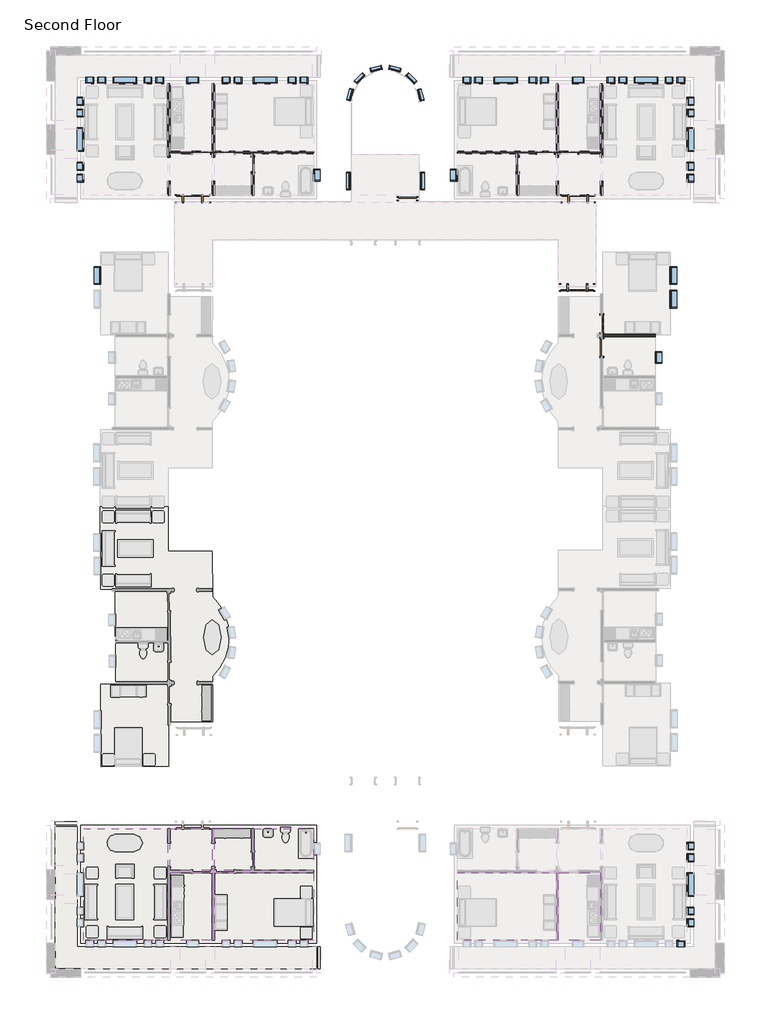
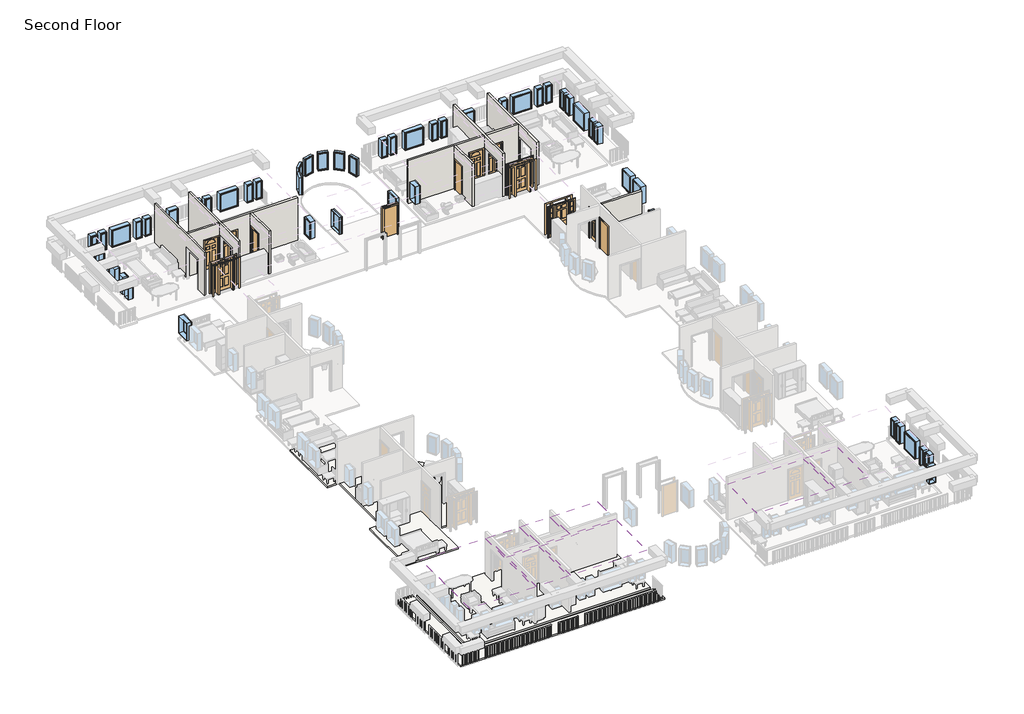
# One storey, part 3 of 6: 52 windows, 12 doors, 11 walls, 8 coverings, 3 slabs.
"""IFC4 building model written with IfcOpenShell, lengths in millimetres."""

from ifc_helpers import new_model, si_unit, point, frame, frame_2d, origin, place, context, project, spatial, polyline, circle_curve, trimmed, segment, composite_curve, outline, extrude, faceted_brep, transform, mapped, element, save
from components import door_7a520c88, door_829da954, door_2e3b4da2, door_4d6c7550, door_e36758a9, door_16372e1c, door_dba5aa2e, door_ffdb1193, window_da97879f, window_d61ef850, window_60baf983, window_ed80354a, window_80bd9af0, window_15c49d37, window_0e2fc6ce, window_e2841890, window_6eb97611, window_d89bf842

model = new_model("IFC4")

# Units and contexts
model_context = context("Model", 3, world=origin())
ifc_project = project(units=[si_unit("LENGTHUNIT", "METRE", prefix="MILLI")], contexts=[model_context])

# Site, building, storey
site = spatial("IfcSite", under=ifc_project)
building = spatial("IfcBuilding", under=site)
storey = spatial("IfcBuildingStorey", under=building, Name="Second Floor", Elevation=3048.0)

# Coverings
placement = place(None, origin())
element("IfcCovering", 1, ObjectType="GWB on Mtl. Stud", at=placement, inside=storey, context=model_context, shape_type="SweptSolid", body=[
    extrude(outline(polyline([(-11217.2464563, -33878.3558133), (-11217.2464563, -30395.3808133), (-6122.9589563, -30395.3808133), (-6122.9589563, -33878.3558133), (-11217.2464563, -33878.3558133)])), frame((0.0, 0.0, 5638.8), z_axis=(0.0, 0.0, 1.0), x_axis=(1.0, 0.0, 0.0)), (0.0, 0.0, 1.0), 107.95),
])
element("IfcCovering", 2, ObjectType="GWB on Mtl. Stud", at=placement, inside=storey, context=model_context, shape_type="SweptSolid", body=[
    extrude(outline(polyline([(-5995.9589563, -30395.3808133), (-3836.9589563, -30395.3808133), (-3836.9589563, -33878.3558133), (-5995.9589563, -33878.3558133), (-5995.9589563, -30395.3808133)])), frame((0.0, 0.0, 5638.8), z_axis=(0.0, 0.0, 1.0), x_axis=(1.0, 0.0, 0.0)), (0.0, 0.0, 1.0), 107.95),
])
element("IfcCovering", 3, ObjectType="GWB on Mtl. Stud", at=placement, inside=storey, context=model_context, shape_type="SweptSolid", body=[
    extrude(outline(polyline([(-18653.0964563, -33878.3558133), (-23747.3839563, -33878.3558133), (-23747.3839563, -30395.3808133), (-18653.0964563, -30395.3808133), (-18653.0964563, -33878.3558133)])), frame((0.0, 0.0, 5638.8), z_axis=(0.0, 0.0, 1.0), x_axis=(1.0, 0.0, 0.0)), (0.0, 0.0, 1.0), 107.95),
])
element("IfcCovering", 4, ObjectType="GWB on Mtl. Stud", at=placement, inside=storey, context=model_context, shape_type="SweptSolid", body=[
    extrude(outline(polyline([(-23874.3839563, -30395.3808133), (-23874.3839563, -33878.3558133), (-26033.3839563, -33878.3558133), (-26033.3839563, -30395.3808133), (-23874.3839563, -30395.3808133)])), frame((0.0, 0.0, 5638.8), z_axis=(0.0, 0.0, 1.0), x_axis=(1.0, 0.0, 0.0)), (0.0, 0.0, 1.0), 107.95),
])
element("IfcCovering", 5, ObjectType="GWB on Mtl. Stud", at=placement, inside=storey, context=model_context, shape_type="SweptSolid", body=[
    extrude(outline(polyline([(-26160.3839563, -28134.7808133), (-26160.3839563, -33878.3558133), (-30492.6714563, -33878.3558133), (-30492.6714563, -28134.7808133), (-26160.3839563, -28134.7808133)])), frame((0.0, 0.0, 5638.8), z_axis=(0.0, 0.0, 1.0), x_axis=(1.0, 0.0, 0.0)), (0.0, 0.0, 1.0), 107.95),
])
element("IfcCovering", 6, ObjectType="GWB on Mtl. Stud", at=placement, inside=storey, context=model_context, shape_type="SweptSolid", body=[
    extrude(outline(polyline([(-26033.3839563, -28134.7808133), (-23874.3839563, -28134.7808133), (-23874.3839563, -30268.3808133), (-26033.3839563, -30268.3808133), (-26033.3839563, -28134.7808133)])), frame((0.0, 0.0, 5638.8), z_axis=(0.0, 0.0, 1.0), x_axis=(1.0, 0.0, 0.0)), (0.0, 0.0, 1.0), 107.95),
])
element("IfcCovering", 7, ObjectType="GWB on Mtl. Stud", at=placement, inside=storey, context=model_context, shape_type="SweptSolid", body=[
    extrude(outline(polyline([(-23747.3839563, -28134.7808133), (-21828.0964563, -28134.7808133), (-21828.0964563, -30268.3808133), (-23747.3839563, -30268.3808133), (-23747.3839563, -28134.7808133)])), frame((0.0, 0.0, 5638.8), z_axis=(0.0, 0.0, 1.0), x_axis=(1.0, 0.0, 0.0)), (0.0, 0.0, 1.0), 107.95),
])
element("IfcCovering", 8, ObjectType="GWB on Mtl. Stud", at=placement, inside=storey, context=model_context, shape_type="SweptSolid", body=[
    extrude(outline(polyline([(-21701.0964563, -30268.3808133), (-21701.0964563, -28134.7808133), (-18653.0964563, -28134.7808133), (-18653.0964563, -30268.3808133), (-21701.0964563, -30268.3808133)])), frame((0.0, 0.0, 5638.8), z_axis=(0.0, 0.0, 1.0), x_axis=(1.0, 0.0, 0.0)), (0.0, 0.0, 1.0), 107.95),
])

# Doors
door_shape = door_7a520c88(model_context)
element("IfcDoor", 9, ObjectType="Single-Decorative 2 : 36\" x 84\"", at=placement, inside=storey, context=model_context, shape_type="MappedRepresentation", body=[
    mapped(door_shape, transform((-3771.8996568, -2102.1231556, 3048.0), x_axis=(0.0007588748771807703, -0.9999997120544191, 0.0), y_axis=(0.9999997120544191, 0.0007588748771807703, 0.0), z_axis=(0.0, 0.0, 1.0))),
])
door_2_shape = door_829da954(model_context)
element("IfcDoor", 10, ObjectType="Single-Decorative 2 : 36\" x 84\"", at=placement, inside=storey, context=model_context, shape_type="MappedRepresentation", body=[
    mapped(door_2_shape, transform((-5449.8589563, 6723.5441867, 3048.0), x_axis=(-1.0, 0.0, 0.0), y_axis=(0.0, -1.0, 0.0), z_axis=(0.0, 0.0, 1.0))),
])
element("IfcDoor", 11, ObjectType="Single-Decorative 2 : 36\" x 84\"", at=placement, inside=storey, context=model_context, shape_type="MappedRepresentation", body=[
    mapped(door_2_shape, transform((-23201.2839563, 6723.5441867, 3048.0), x_axis=(-1.0, 0.0, 0.0), y_axis=(0.0, -1.0, 0.0), z_axis=(0.0, 0.0, 1.0))),
])
door_3_shape = door_2e3b4da2(model_context)
element("IfcDoor", 12, ObjectType="Single-Decorative 2 : 36\" x 84\"", at=placement, inside=storey, context=model_context, shape_type="MappedRepresentation", body=[
    mapped(door_3_shape, transform((-6669.0589563, 6723.5441867, 3048.0), x_axis=(1.0, 0.0, 0.0), y_axis=(0.0, 1.0, 0.0), z_axis=(0.0, 0.0, 1.0))),
])
element("IfcDoor", 13, ObjectType="Single-Decorative 2 : 36\" x 84\"", at=placement, inside=storey, context=model_context, shape_type="MappedRepresentation", body=[
    mapped(door_3_shape, transform((-24420.4839563, 6723.5441867, 3048.0), x_axis=(1.0, 0.0, 0.0), y_axis=(0.0, 1.0, 0.0), z_axis=(0.0, 0.0, 1.0))),
])
door_4_shape = door_4d6c7550(model_context)
element("IfcDoor", 14, ObjectType="Single-Flush : 30\" x 84\"", at=placement, inside=storey, context=model_context, shape_type="MappedRepresentation", body=[
    mapped(door_4_shape, transform((-8105.7464563, 6113.9441867, 3048.0), x_axis=(0.0, 1.0, 0.0), y_axis=(-1.0, 0.0, 0.0), z_axis=(0.0, 0.0, 1.0))),
])
door_5_shape = door_e36758a9(model_context)
element("IfcDoor", 15, ObjectType="Single-Flush : 30\" x 84\"", at=placement, inside=storey, context=model_context, shape_type="MappedRepresentation", body=[
    mapped(door_5_shape, transform((-21764.5964563, 6113.9441867, 3048.0), x_axis=(0.0, 1.0, 0.0), y_axis=(-1.0, 0.0, 0.0), z_axis=(0.0, 0.0, 1.0))),
])
door_6_shape = door_16372e1c(model_context)
element("IfcDoor", 16, ObjectType="Single-Flush : 36\" x 84\"", at=placement, inside=storey, context=model_context, shape_type="MappedRepresentation", body=[
    mapped(door_6_shape, transform((-13792.1714563, 4350.2316867, 3048.0), x_axis=(1.0, 0.0, 0.0), y_axis=(0.0, 1.0, 0.0), z_axis=(0.0, 0.0, 1.0))),
])
element("IfcDoor", 17, ObjectType="Single-Flush : 36\" x 84\"", at=placement, inside=storey, context=model_context, shape_type="MappedRepresentation", body=[
    mapped(door_6_shape, transform((-3770.9744365, -3321.3228045, 3048.0), x_axis=(-0.0007588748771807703, 0.9999997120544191, 0.0), y_axis=(-0.9999997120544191, -0.0007588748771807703, 0.0), z_axis=(0.0, 0.0, 1.0))),
])
door_7_shape = door_dba5aa2e(model_context)
element("IfcDoor", 18, ObjectType="Single-Raised Panel with Sidelights : 36\" x 84\"", at=placement, inside=storey, context=model_context, shape_type="MappedRepresentation", body=[
    mapped(door_7_shape, transform((-4992.6589563, 4350.2316867, 3048.0), x_axis=(-1.0, 0.0, 0.0), y_axis=(0.0, -1.0, 0.0), z_axis=(0.0, 0.0, 1.0))),
])
door_8_shape = door_ffdb1193(model_context)
element("IfcDoor", 19, ObjectType="Single-Raised Panel with Sidelights : 36\" x 84\"", at=placement, inside=storey, context=model_context, shape_type="MappedRepresentation", body=[
    mapped(door_8_shape, transform((-24877.6839563, 4350.2316867, 3048.0), x_axis=(1.0, 0.0, 0.0), y_axis=(0.0, 1.0, 0.0), z_axis=(0.0, 0.0, 1.0))),
])
element("IfcDoor", 20, ObjectType="Single-Raised Panel with Sidelights : 36\" x 84\"", at=placement, inside=storey, context=model_context, shape_type="MappedRepresentation", body=[
    mapped(door_8_shape, transform((-5029.0381129, -223.5602693, 3048.0), x_axis=(-0.9999997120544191, -0.0007588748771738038, 0.0), y_axis=(0.0007588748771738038, -0.9999997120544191, 0.0), z_axis=(0.0, 0.0, 1.0))),
])

# Slabs
element("IfcSlab", 21, ObjectType="LW Concrete on Metal Deck", at=placement, inside=storey, context=model_context, shape_type="SweptSolid", body=[
    extrude(outline(polyline([(-31964.2839563, -35349.9683133), (-31964.2839563, -27782.3558133), (-30845.0964563, -27782.3558133), (-30845.0964563, -34230.7808133), (-18300.6714563, -34230.7808133), (-18300.6714563, -35349.9683133), (-31964.2839563, -35349.9683133)])), frame((0.0, 0.0, 2943.225), z_axis=(0.0, 0.0, 1.0), x_axis=(1.0, 0.0, 0.0)), (0.0, 0.0, 1.0), 104.775),
])
element("IfcSlab", 22, ObjectType="LW Concrete on Metal Deck", at=placement, inside=storey, context=model_context, shape_type="SweptSolid", body=[
    extrude(outline(polyline([(-30657.7714563, -34043.4558133), (-30657.7714563, -27969.6808133), (-18487.9964563, -27969.6808133), (-18487.9964563, -34043.4558133), (-30657.7714563, -34043.4558133)])), frame((0.0, 0.0, 2943.225), z_axis=(0.0, 0.0, 1.0), x_axis=(1.0, 0.0, 0.0)), (0.0, 0.0, 1.0), 104.775),
])
element("IfcSlab", 23, ObjectType="LW Concrete on Metal Deck", at=placement, inside=storey, context=model_context, shape_type="SweptSolid", body=[
    extrude(outline(composite_curve([segment(polyline([(-29609.2961082, -24931.1815598), (-29618.9603154, -20686.2175607), (-28856.9622901, -20684.4827741), (-28868.1155225, -15785.4704699), (-29630.1135478, -15787.2052566), (-29639.777755, -11542.2412575), (-26156.8117812, -11534.3118369), (-26151.6074213, -13820.3059127), (-23865.6133455, -13815.1015528), (-23860.2393533, -16175.6059337)]), True, "CONTINUOUS"), segment(trimmed(circle_curve(frame_2d((-25868.7665498, -18228.1609137)), 2871.7875), [point((-23860.2393533, -16175.6059337))], [point((-23850.9144107, -20271.5493226))], False, "CARTESIAN"), True, "CONTINUOUS"), segment(polyline([(-23850.9144107, -20271.5493226), (-23845.5404184, -22632.0537035), (-26131.5344942, -22637.2580634), (-26126.3301343, -24923.2521392), (-29609.2961082, -24931.1815598)]), True, "CONTINUOUS")], self_intersect=False)), frame((0.0, 0.0, 2943.225), z_axis=(0.0, 0.0, 1.0), x_axis=(1.0, 0.0, 0.0)), (0.0, 0.0, 1.0), 104.775),
])

# Walls
element("IfcWall", 24, ObjectType="Interior - 5\" Partition (2-hr)", at=placement, inside=storey, context=model_context, shape_type="Brep", body=[
    faceted_brep([(-3709.9589563, 10270.0191867, 3048.0), (-3709.9589563, 6483.8316867, 3048.0), (-3836.9589563, 6483.8316867, 3048.0), (-3836.9589563, 6660.0441867, 3048.0), (-3836.9589563, 6787.0441867, 3048.0), (-3836.9589563, 10270.0191867, 3048.0), (-3709.9589563, 5264.6316867, 3048.0), (-3709.9589563, 4526.4441867, 3048.0), (-3836.9589563, 4526.4441867, 3048.0), (-3836.9589563, 5264.6316867, 3048.0), (-3836.9589563, 10270.0191867, 6096.0), (-3836.9589563, 6787.0441867, 6096.0), (-3836.9589563, 6660.0441867, 6096.0), (-3836.9589563, 4526.4441867, 6096.0), (-3709.9589563, 4526.4441867, 6096.0), (-3709.9589563, 10270.0191867, 6096.0), (-3836.9589563, 6483.8316867, 5181.6), (-3836.9589563, 5264.6316867, 5181.6), (-3709.9589563, 6483.8316867, 5181.6), (-3709.9589563, 5264.6316867, 5181.6)], [[[0, 1, 2, 3, 4, 5]], [[6, 7, 8, 9]], [[10, 11, 12, 13, 14, 15]], [[5, 4, 3, 2, 16, 17, 9, 8, 13, 12, 11, 10]], [[18, 1, 0, 15, 14, 7, 6, 19]], [[5, 10, 15, 0]], [[13, 8, 7, 14]], [[9, 17, 19, 6]], [[16, 2, 1, 18]], [[17, 16, 18, 19]]]),
])
element("IfcWall", 25, ObjectType="Interior - 5\" Partition (2-hr)", at=placement, inside=storey, context=model_context, shape_type="Brep", body=[
    faceted_brep([(-6122.9589563, 4526.4441867, 3048.0), (-6122.9589563, 5264.6316867, 3048.0), (-5995.9589563, 5264.6316867, 3048.0), (-5995.9589563, 4526.4441867, 3048.0), (-6122.9589563, 6483.8316867, 3048.0), (-6122.9589563, 6660.0441867, 3048.0), (-6122.9589563, 6787.0441867, 3048.0), (-6122.9589563, 10270.0191867, 3048.0), (-5995.9589563, 10270.0191867, 3048.0), (-5995.9589563, 6787.0441867, 3048.0), (-5995.9589563, 6660.0441867, 3048.0), (-5995.9589563, 6483.8316867, 3048.0), (-6122.9589563, 10270.0191867, 6096.0), (-6122.9589563, 6787.0441867, 6096.0), (-6122.9589563, 6660.0441867, 6096.0), (-6122.9589563, 4526.4441867, 6096.0), (-5995.9589563, 4526.4441867, 6096.0), (-5995.9589563, 6660.0441867, 6096.0), (-5995.9589563, 6787.0441867, 6096.0), (-5995.9589563, 10270.0191867, 6096.0), (-6122.9589563, 5264.6316867, 5181.6), (-6122.9589563, 6483.8316867, 5181.6), (-5995.9589563, 5264.6316867, 5181.6), (-5995.9589563, 6483.8316867, 5181.6)], [[[0, 1, 2, 3]], [[4, 5, 6, 7, 8, 9, 10, 11]], [[12, 13, 14, 15, 16, 17, 18, 19]], [[20, 1, 0, 15, 14, 13, 12, 7, 6, 5, 4, 21]], [[3, 2, 22, 23, 11, 10, 9, 8, 19, 18, 17, 16]], [[7, 12, 19, 8]], [[15, 0, 3, 16]], [[11, 23, 21, 4]], [[22, 2, 1, 20]], [[23, 22, 20, 21]]]),
])
element("IfcWall", 26, ObjectType="Interior - 5\" Partition (2-hr)", at=placement, inside=storey, context=model_context, shape_type="Brep", body=[
    faceted_brep([(-6122.9589563, 6660.0441867, 3048.0), (-6211.8589563, 6660.0441867, 3048.0), (-6211.8589563, 6787.0441867, 3048.0), (-6122.9589563, 6787.0441867, 3048.0), (-7126.2589563, 6660.0441867, 3048.0), (-8042.2464563, 6660.0441867, 3048.0), (-8169.2464563, 6660.0441867, 3048.0), (-11217.2464563, 6660.0441867, 3048.0), (-11217.2464563, 6787.0441867, 3048.0), (-7126.2589563, 6787.0441867, 3048.0), (-11217.2464563, 6660.0441867, 6096.0), (-8169.2464563, 6660.0441867, 6096.0), (-8042.2464563, 6660.0441867, 6096.0), (-6122.9589563, 6660.0441867, 6096.0), (-6122.9589563, 6787.0441867, 6096.0), (-11217.2464563, 6787.0441867, 6096.0), (-6211.8589563, 6660.0441867, 5181.6), (-7126.2589563, 6660.0441867, 5181.6), (-6211.8589563, 6787.0441867, 5181.6), (-7126.2589563, 6787.0441867, 5181.6)], [[[0, 1, 2, 3]], [[4, 5, 6, 7, 8, 9]], [[10, 11, 12, 13, 14, 15]], [[16, 1, 0, 13, 12, 11, 10, 7, 6, 5, 4, 17]], [[3, 2, 18, 19, 9, 8, 15, 14]], [[13, 0, 3, 14]], [[7, 10, 15, 8]], [[18, 2, 1, 16]], [[19, 18, 16, 17]], [[9, 19, 17, 4]]]),
])
element("IfcWall", 27, ObjectType="Interior - 5\" Partition (2-hr)", at=placement, inside=storey, context=model_context, shape_type="SweptSolid", body=[
    extrude(outline(polyline([(6660.0441867, 3048.0), (6494.9441867, 3048.0), (6494.9441867, 5181.6), (5732.9441867, 5181.6), (5732.9441867, 3048.0), (4526.4441867, 3048.0), (4526.4441867, 6096.0), (6660.0441867, 6096.0), (6660.0441867, 3048.0)])), frame((-8169.2464563, 0.0, 0.0), z_axis=(1.0, 0.0, 0.0), x_axis=(0.0, 1.0, 0.0)), (0.0, 0.0, 1.0), 127.0),
])
element("IfcWall", 28, ObjectType="Interior - 5\" Partition (2-hr)", at=placement, inside=storey, context=model_context, shape_type="SweptSolid", body=[
    extrude(outline(polyline([(3048.0, -5995.9589563), (3048.0, -5907.0589563), (5181.6, -5907.0589563), (5181.6, -4992.6589563), (3048.0, -4992.6589563), (3048.0, -3836.9589563), (6096.0, -3836.9589563), (6096.0, -5995.9589563), (3048.0, -5995.9589563)])), frame((0.0, 6660.0441867, 0.0), z_axis=(0.0, 1.0, 0.0), x_axis=(0.0, 0.0, 1.0)), (0.0, 0.0, 1.0), 127.0),
])
element("IfcWall", 29, ObjectType="Interior - 5\" Partition (2-hr)", at=placement, inside=storey, context=model_context, shape_type="Brep", body=[
    faceted_brep([(-26033.3839563, 10270.0191867, 3048.0), (-26033.3839563, 6787.0441867, 3048.0), (-26033.3839563, 6660.0441867, 3048.0), (-26033.3839563, 6483.8316867, 3048.0), (-26160.3839563, 6483.8316867, 3048.0), (-26160.3839563, 10270.0191867, 3048.0), (-26033.3839563, 5264.6316867, 3048.0), (-26033.3839563, 4526.4441867, 3048.0), (-26160.3839563, 4526.4441867, 3048.0), (-26160.3839563, 5264.6316867, 3048.0), (-26160.3839563, 10270.0191867, 6096.0), (-26160.3839563, 4526.4441867, 6096.0), (-26033.3839563, 4526.4441867, 6096.0), (-26033.3839563, 6660.0441867, 6096.0), (-26033.3839563, 6787.0441867, 6096.0), (-26033.3839563, 10270.0191867, 6096.0), (-26160.3839563, 6483.8316867, 5181.6), (-26160.3839563, 5264.6316867, 5181.6), (-26033.3839563, 6483.8316867, 5181.6), (-26033.3839563, 5264.6316867, 5181.6)], [[[0, 1, 2, 3, 4, 5]], [[6, 7, 8, 9]], [[10, 11, 12, 13, 14, 15]], [[5, 4, 16, 17, 9, 8, 11, 10]], [[18, 3, 2, 1, 0, 15, 14, 13, 12, 7, 6, 19]], [[5, 10, 15, 0]], [[11, 8, 7, 12]], [[9, 17, 19, 6]], [[16, 4, 3, 18]], [[17, 16, 18, 19]]]),
])
element("IfcWall", 30, ObjectType="Interior - 5\" Partition (2-hr)", at=placement, inside=storey, context=model_context, shape_type="Brep", body=[
    faceted_brep([(-23874.3839563, 4526.4441867, 3048.0), (-23874.3839563, 5264.6316867, 3048.0), (-23747.3839563, 5264.6316867, 3048.0), (-23747.3839563, 4526.4441867, 3048.0), (-23874.3839563, 6483.8316867, 3048.0), (-23874.3839563, 6660.0441867, 3048.0), (-23874.3839563, 6787.0441867, 3048.0), (-23874.3839563, 10270.0191867, 3048.0), (-23747.3839563, 10270.0191867, 3048.0), (-23747.3839563, 6787.0441867, 3048.0), (-23747.3839563, 6660.0441867, 3048.0), (-23747.3839563, 6483.8316867, 3048.0), (-23874.3839563, 10270.0191867, 6096.0), (-23874.3839563, 6787.0441867, 6096.0), (-23874.3839563, 6660.0441867, 6096.0), (-23874.3839563, 4526.4441867, 6096.0), (-23747.3839563, 4526.4441867, 6096.0), (-23747.3839563, 6660.0441867, 6096.0), (-23747.3839563, 6787.0441867, 6096.0), (-23747.3839563, 10270.0191867, 6096.0), (-23874.3839563, 5264.6316867, 5181.6), (-23874.3839563, 6483.8316867, 5181.6), (-23747.3839563, 5264.6316867, 5181.6), (-23747.3839563, 6483.8316867, 5181.6)], [[[0, 1, 2, 3]], [[4, 5, 6, 7, 8, 9, 10, 11]], [[12, 13, 14, 15, 16, 17, 18, 19]], [[20, 1, 0, 15, 14, 13, 12, 7, 6, 5, 4, 21]], [[3, 2, 22, 23, 11, 10, 9, 8, 19, 18, 17, 16]], [[7, 12, 19, 8]], [[15, 0, 3, 16]], [[11, 23, 21, 4]], [[22, 2, 1, 20]], [[23, 22, 20, 21]]]),
])
element("IfcWall", 31, ObjectType="Interior - 5\" Partition (2-hr)", at=placement, inside=storey, context=model_context, shape_type="Brep", body=[
    faceted_brep([(-23747.3839563, 6787.0441867, 3048.0), (-23658.4839563, 6787.0441867, 3048.0), (-23658.4839563, 6660.0441867, 3048.0), (-23747.3839563, 6660.0441867, 3048.0), (-22744.0839563, 6787.0441867, 3048.0), (-18653.0964563, 6787.0441867, 3048.0), (-18653.0964563, 6660.0441867, 3048.0), (-21701.0964563, 6660.0441867, 3048.0), (-21828.0964563, 6660.0441867, 3048.0), (-22744.0839563, 6660.0441867, 3048.0), (-18653.0964563, 6787.0441867, 6096.0), (-23747.3839563, 6787.0441867, 6096.0), (-23747.3839563, 6660.0441867, 6096.0), (-21828.0964563, 6660.0441867, 6096.0), (-21701.0964563, 6660.0441867, 6096.0), (-18653.0964563, 6660.0441867, 6096.0), (-23658.4839563, 6787.0441867, 5181.6), (-22744.0839563, 6787.0441867, 5181.6), (-23658.4839563, 6660.0441867, 5181.6), (-22744.0839563, 6660.0441867, 5181.6)], [[[0, 1, 2, 3]], [[4, 5, 6, 7, 8, 9]], [[10, 11, 12, 13, 14, 15]], [[16, 1, 0, 11, 10, 5, 4, 17]], [[3, 2, 18, 19, 9, 8, 7, 6, 15, 14, 13, 12]], [[11, 0, 3, 12]], [[5, 10, 15, 6]], [[18, 2, 1, 16]], [[19, 18, 16, 17]], [[9, 19, 17, 4]]]),
])
element("IfcWall", 32, ObjectType="Interior - 5\" Partition (2-hr)", at=placement, inside=storey, context=model_context, shape_type="SweptSolid", body=[
    extrude(outline(polyline([(6660.0441867, 3048.0), (6494.9441867, 3048.0), (6494.9441867, 5181.6), (5732.9441867, 5181.6), (5732.9441867, 3048.0), (4526.4441867, 3048.0), (4526.4441867, 6096.0), (6660.0441867, 6096.0), (6660.0441867, 3048.0)])), frame((-21828.0964563, 0.0, 0.0), z_axis=(1.0, 0.0, 0.0), x_axis=(0.0, 1.0, 0.0)), (0.0, 0.0, 1.0), 127.0),
])
element("IfcWall", 33, ObjectType="Interior - 5\" Partition (2-hr)", at=placement, inside=storey, context=model_context, shape_type="SweptSolid", body=[
    extrude(outline(polyline([(5181.6, -23963.2839563), (3048.0, -23963.2839563), (3048.0, -23874.3839563), (6096.0, -23874.3839563), (6096.0, -26033.3839563), (3048.0, -26033.3839563), (3048.0, -24877.6839563), (5181.6, -24877.6839563), (5181.6, -23963.2839563)])), frame((0.0, 6660.0441867, 0.0), z_axis=(0.0, 1.0, 0.0), x_axis=(0.0, 0.0, 1.0)), (0.0, 0.0, 1.0), 127.0),
])
element("IfcWall", 34, ObjectType="Interior - 5\" Partition (2-hr)", at=placement, inside=storey, context=model_context, shape_type="SweptSolid", body=[
    extrude(outline(polyline([(-3707.9852535, -2648.1748098), (-1012.4110297, -2646.1292056), (-1012.3146526, -2773.1291691), (-3707.8888764, -2775.1747732), (-3707.9852535, -2648.1748098)])), frame((0.0, 0.0, 3048.0), z_axis=(0.0, 0.0, 1.0), x_axis=(1.0, 0.0, 0.0)), (0.0, 0.0, 1.0), 3048.0),
])

# Windows
window_shape = window_da97879f(model_context)
element("IfcWindow", 35, ObjectType="Fixed : 16\" x 48\"", at=placement, inside=storey, context=model_context, shape_type="MappedRepresentation", body=[
    mapped(window_shape, transform((-10771.1589563, 10446.2316867, 3048.0), x_axis=(-1.0, 0.0, 0.0), y_axis=(0.0, -1.0, 0.0), z_axis=(0.0, 0.0, 1.0))),
])
element("IfcWindow", 36, ObjectType="Fixed : 16\" x 48\"", at=placement, inside=storey, context=model_context, shape_type="MappedRepresentation", body=[
    mapped(window_shape, transform((-10161.5589563, 10446.2316867, 3048.0), x_axis=(-1.0, 0.0, 0.0), y_axis=(0.0, -1.0, 0.0), z_axis=(0.0, 0.0, 1.0))),
])
element("IfcWindow", 37, ObjectType="Fixed : 16\" x 48\"", at=placement, inside=storey, context=model_context, shape_type="MappedRepresentation", body=[
    mapped(window_shape, transform((-3328.9589563, 10446.2316867, 3048.0), x_axis=(-1.0, 0.0, 0.0), y_axis=(0.0, -1.0, 0.0), z_axis=(0.0, 0.0, 1.0))),
])
element("IfcWindow", 38, ObjectType="Fixed : 16\" x 48\"", at=placement, inside=storey, context=model_context, shape_type="MappedRepresentation", body=[
    mapped(window_shape, transform((-2719.3589563, 10446.2316867, 3048.0), x_axis=(-1.0, 0.0, 0.0), y_axis=(0.0, -1.0, 0.0), z_axis=(0.0, 0.0, 1.0))),
])
element("IfcWindow", 39, ObjectType="Fixed : 16\" x 48\"", at=placement, inside=storey, context=model_context, shape_type="MappedRepresentation", body=[
    mapped(window_shape, transform((798.5410437, 9417.5316867, 3048.0), x_axis=(0.0, 1.0, 0.0), y_axis=(-1.0, 0.0, 0.0), z_axis=(0.0, 0.0, 1.0))),
])
element("IfcWindow", 40, ObjectType="Fixed : 16\" x 48\"", at=placement, inside=storey, context=model_context, shape_type="MappedRepresentation", body=[
    mapped(window_shape, transform((798.5410437, 8807.9316867, 3048.0), x_axis=(0.0, 1.0, 0.0), y_axis=(-1.0, 0.0, 0.0), z_axis=(0.0, 0.0, 1.0))),
])
element("IfcWindow", 41, ObjectType="Fixed : 16\" x 48\"", at=placement, inside=storey, context=model_context, shape_type="MappedRepresentation", body=[
    mapped(window_shape, transform((-23188.5839563, 10446.2316867, 3048.0), x_axis=(-1.0, 0.0, 0.0), y_axis=(0.0, -1.0, 0.0), z_axis=(0.0, 0.0, 1.0))),
])
element("IfcWindow", 42, ObjectType="Fixed : 16\" x 48\"", at=placement, inside=storey, context=model_context, shape_type="MappedRepresentation", body=[
    mapped(window_shape, transform((-22578.9839563, 10446.2316867, 3048.0), x_axis=(-1.0, 0.0, 0.0), y_axis=(0.0, -1.0, 0.0), z_axis=(0.0, 0.0, 1.0))),
])
element("IfcWindow", 43, ObjectType="Fixed : 16\" x 48\"", at=placement, inside=storey, context=model_context, shape_type="MappedRepresentation", body=[
    mapped(window_shape, transform((-30224.3839563, 10446.2316867, 3048.0), x_axis=(-1.0, 0.0, 0.0), y_axis=(0.0, -1.0, 0.0), z_axis=(0.0, 0.0, 1.0))),
])
element("IfcWindow", 44, ObjectType="Fixed : 16\" x 48\"", at=placement, inside=storey, context=model_context, shape_type="MappedRepresentation", body=[
    mapped(window_shape, transform((-29614.7839563, 10446.2316867, 3048.0), x_axis=(-1.0, 0.0, 0.0), y_axis=(0.0, -1.0, 0.0), z_axis=(0.0, 0.0, 1.0))),
])
element("IfcWindow", 45, ObjectType="Fixed : 16\" x 48\"", at=placement, inside=storey, context=model_context, shape_type="MappedRepresentation", body=[
    mapped(window_shape, transform((-30668.8839563, 5378.9316867, 3048.0), x_axis=(0.0, -1.0, 0.0), y_axis=(1.0, 0.0, 0.0), z_axis=(0.0, 0.0, 1.0))),
])
element("IfcWindow", 46, ObjectType="Fixed : 16\" x 48\"", at=placement, inside=storey, context=model_context, shape_type="MappedRepresentation", body=[
    mapped(window_shape, transform((-30668.8839563, 5988.5316867, 3048.0), x_axis=(0.0, -1.0, 0.0), y_axis=(1.0, 0.0, 0.0), z_axis=(0.0, 0.0, 1.0))),
])
element("IfcWindow", 47, ObjectType="Fixed : 16\" x 48\"", at=placement, inside=storey, context=model_context, shape_type="MappedRepresentation", body=[
    mapped(window_shape, transform((354.0410437, -34054.5683133, 3048.0), x_axis=(1.0, 0.0, 0.0), y_axis=(0.0, 1.0, 0.0), z_axis=(0.0, 0.0, 1.0))),
])
element("IfcWindow", 48, ObjectType="Fixed : 16\" x 48\"", at=placement, inside=storey, context=model_context, shape_type="MappedRepresentation", body=[
    mapped(window_shape, transform((798.5410437, -28987.2683133, 3048.0), x_axis=(0.0, 1.0, 0.0), y_axis=(-1.0, 0.0, 0.0), z_axis=(0.0, 0.0, 1.0))),
])
element("IfcWindow", 49, ObjectType="Fixed : 16\" x 48\"", at=placement, inside=storey, context=model_context, shape_type="MappedRepresentation", body=[
    mapped(window_shape, transform((798.5410437, -29596.8683133, 3048.0), x_axis=(0.0, 1.0, 0.0), y_axis=(-1.0, 0.0, 0.0), z_axis=(0.0, 0.0, 1.0))),
])
window_2_shape = window_d61ef850(model_context)
element("IfcWindow", 50, ObjectType="Fixed : 16\" x 48\"", at=placement, inside=storey, context=model_context, shape_type="MappedRepresentation", body=[
    mapped(window_2_shape, transform((-6681.7589563, 10446.2316867, 3048.0), x_axis=(1.0, 0.0, 0.0), y_axis=(0.0, 1.0, 0.0), z_axis=(0.0, 0.0, 1.0))),
])
element("IfcWindow", 51, ObjectType="Fixed : 16\" x 48\"", at=placement, inside=storey, context=model_context, shape_type="MappedRepresentation", body=[
    mapped(window_2_shape, transform((-7291.3589563, 10446.2316867, 3048.0), x_axis=(1.0, 0.0, 0.0), y_axis=(0.0, 1.0, 0.0), z_axis=(0.0, 0.0, 1.0))),
])
element("IfcWindow", 52, ObjectType="Fixed : 16\" x 48\"", at=placement, inside=storey, context=model_context, shape_type="MappedRepresentation", body=[
    mapped(window_2_shape, transform((354.0410437, 10446.2316867, 3048.0), x_axis=(1.0, 0.0, 0.0), y_axis=(0.0, 1.0, 0.0), z_axis=(0.0, 0.0, 1.0))),
])
element("IfcWindow", 53, ObjectType="Fixed : 16\" x 48\"", at=placement, inside=storey, context=model_context, shape_type="MappedRepresentation", body=[
    mapped(window_2_shape, transform((-255.5589563, 10446.2316867, 3048.0), x_axis=(1.0, 0.0, 0.0), y_axis=(0.0, 1.0, 0.0), z_axis=(0.0, 0.0, 1.0))),
])
element("IfcWindow", 54, ObjectType="Fixed : 16\" x 48\"", at=placement, inside=storey, context=model_context, shape_type="MappedRepresentation", body=[
    mapped(window_2_shape, transform((798.5410437, 5378.9316867, 3048.0), x_axis=(0.0, -1.0, 0.0), y_axis=(1.0, 0.0, 0.0), z_axis=(0.0, 0.0, 1.0))),
])
element("IfcWindow", 55, ObjectType="Fixed : 16\" x 48\"", at=placement, inside=storey, context=model_context, shape_type="MappedRepresentation", body=[
    mapped(window_2_shape, transform((798.5410437, 5988.5316867, 3048.0), x_axis=(0.0, -1.0, 0.0), y_axis=(1.0, 0.0, 0.0), z_axis=(0.0, 0.0, 1.0))),
])
element("IfcWindow", 56, ObjectType="Fixed : 16\" x 48\"", at=placement, inside=storey, context=model_context, shape_type="MappedRepresentation", body=[
    mapped(window_2_shape, transform((-19099.1839563, 10446.2316867, 3048.0), x_axis=(1.0, 0.0, 0.0), y_axis=(0.0, 1.0, 0.0), z_axis=(0.0, 0.0, 1.0))),
])
element("IfcWindow", 57, ObjectType="Fixed : 16\" x 48\"", at=placement, inside=storey, context=model_context, shape_type="MappedRepresentation", body=[
    mapped(window_2_shape, transform((-19708.7839563, 10446.2316867, 3048.0), x_axis=(1.0, 0.0, 0.0), y_axis=(0.0, 1.0, 0.0), z_axis=(0.0, 0.0, 1.0))),
])
element("IfcWindow", 58, ObjectType="Fixed : 16\" x 48\"", at=placement, inside=storey, context=model_context, shape_type="MappedRepresentation", body=[
    mapped(window_2_shape, transform((-26541.3839563, 10446.2316867, 3048.0), x_axis=(1.0, 0.0, 0.0), y_axis=(0.0, 1.0, 0.0), z_axis=(0.0, 0.0, 1.0))),
])
element("IfcWindow", 59, ObjectType="Fixed : 16\" x 48\"", at=placement, inside=storey, context=model_context, shape_type="MappedRepresentation", body=[
    mapped(window_2_shape, transform((-27150.9839563, 10446.2316867, 3048.0), x_axis=(1.0, 0.0, 0.0), y_axis=(0.0, 1.0, 0.0), z_axis=(0.0, 0.0, 1.0))),
])
element("IfcWindow", 60, ObjectType="Fixed : 16\" x 48\"", at=placement, inside=storey, context=model_context, shape_type="MappedRepresentation", body=[
    mapped(window_2_shape, transform((-30668.8839563, 9417.5316867, 3048.0), x_axis=(0.0, 1.0, 0.0), y_axis=(-1.0, 0.0, 0.0), z_axis=(0.0, 0.0, 1.0))),
])
element("IfcWindow", 61, ObjectType="Fixed : 16\" x 48\"", at=placement, inside=storey, context=model_context, shape_type="MappedRepresentation", body=[
    mapped(window_2_shape, transform((-30668.8839563, 8807.9316867, 3048.0), x_axis=(0.0, 1.0, 0.0), y_axis=(-1.0, 0.0, 0.0), z_axis=(0.0, 0.0, 1.0))),
])
element("IfcWindow", 62, ObjectType="Fixed : 16\" x 48\"", at=placement, inside=storey, context=model_context, shape_type="MappedRepresentation", body=[
    mapped(window_2_shape, transform((798.5410437, -33025.8683133, 3048.0), x_axis=(0.0, -1.0, 0.0), y_axis=(1.0, 0.0, 0.0), z_axis=(0.0, 0.0, 1.0))),
])
element("IfcWindow", 63, ObjectType="Fixed : 16\" x 48\"", at=placement, inside=storey, context=model_context, shape_type="MappedRepresentation", body=[
    mapped(window_2_shape, transform((798.5410437, -32416.2683133, 3048.0), x_axis=(0.0, -1.0, 0.0), y_axis=(1.0, 0.0, 0.0), z_axis=(0.0, 0.0, 1.0))),
])
window_3_shape = window_60baf983(model_context)
element("IfcWindow", 64, ObjectType="Fixed : 24\" x 48\"", at=placement, inside=storey, context=model_context, shape_type="MappedRepresentation", body=[
    mapped(window_3_shape, transform((-5030.7589563, 10446.2316867, 3048.0), x_axis=(-1.0, 0.0, 0.0), y_axis=(0.0, -1.0, 0.0), z_axis=(0.0, 0.0, 1.0))),
])
element("IfcWindow", 65, ObjectType="Fixed : 24\" x 48\"", at=placement, inside=storey, context=model_context, shape_type="MappedRepresentation", body=[
    mapped(window_3_shape, transform((-11393.4589563, 5531.3316867, 3048.0), x_axis=(0.0, -1.0, 0.0), y_axis=(1.0, 0.0, 0.0), z_axis=(0.0, 0.0, 1.0))),
])
window_4_shape = window_ed80354a(model_context)
element("IfcWindow", 66, ObjectType="Fixed : 24\" x 48\"", at=placement, inside=storey, context=model_context, shape_type="MappedRepresentation", body=[
    mapped(window_4_shape, transform((-24839.5839563, 10446.2316867, 3048.0), x_axis=(1.0, 0.0, 0.0), y_axis=(0.0, 1.0, 0.0), z_axis=(0.0, 0.0, 1.0))),
])
element("IfcWindow", 67, ObjectType="Fixed : 24\" x 48\"", at=placement, inside=storey, context=model_context, shape_type="MappedRepresentation", body=[
    mapped(window_4_shape, transform((-18476.8839563, 5531.3316867, 3048.0), x_axis=(0.0, -1.0, 0.0), y_axis=(1.0, 0.0, 0.0), z_axis=(0.0, 0.0, 1.0))),
])
element("IfcWindow", 68, ObjectType="Fixed : 24\" x 48\"", at=placement, inside=storey, context=model_context, shape_type="MappedRepresentation", body=[
    mapped(window_4_shape, transform((-835.2648637, -3876.391272, 3048.0), x_axis=(0.0007588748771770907, -0.9999997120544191, 0.0), y_axis=(0.9999997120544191, 0.0007588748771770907, 0.0), z_axis=(0.0, 0.0, 1.0))),
])
window_5_shape = window_80bd9af0(model_context)
element("IfcWindow", 69, ObjectType="Fixed : 24\" x 48\"", at=placement, inside=storey, context=model_context, shape_type="MappedRepresentation", body=[
    mapped(window_5_shape, transform((-16762.064163, 9683.0417496, 3048.0), x_axis=(-0.26176149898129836, -0.9651325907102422, 0.0), y_axis=(0.9651325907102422, -0.26176149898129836, 0.0), z_axis=(0.0, 0.0, 1.0))),
])
element("IfcWindow", 70, ObjectType="Fixed : 24\" x 48\"", at=placement, inside=storey, context=model_context, shape_type="MappedRepresentation", body=[
    mapped(window_5_shape, transform((-16289.3019188, 10535.3943388, 3048.0), x_axis=(-0.7092584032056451, -0.7049485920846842, 0.0), y_axis=(0.7049485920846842, -0.7092584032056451, 0.0), z_axis=(0.0, 0.0, 1.0))),
])
element("IfcWindow", 71, ObjectType="Fixed : 24\" x 48\"", at=placement, inside=storey, context=model_context, shape_type="MappedRepresentation", body=[
    mapped(window_5_shape, transform((-15453.7015108, 11037.1722121, 3048.0), x_axis=(-0.9667100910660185, -0.25587418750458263, 0.0), y_axis=(0.25587418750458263, -0.9667100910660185, 0.0), z_axis=(0.0, 0.0, 1.0))),
])
element("IfcWindow", 72, ObjectType="Fixed : 24\" x 48\"", at=placement, inside=storey, context=model_context, shape_type="MappedRepresentation", body=[
    mapped(window_5_shape, transform((-14479.1613934, 11053.9243933, 3048.0), x_axis=(-0.9651325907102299, 0.2617614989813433, 0.0), y_axis=(-0.2617614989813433, -0.9651325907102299, 0.0), z_axis=(0.0, 0.0, 1.0))),
])
element("IfcWindow", 73, ObjectType="Fixed : 24\" x 48\"", at=placement, inside=storey, context=model_context, shape_type="MappedRepresentation", body=[
    mapped(window_5_shape, transform((-13626.8088042, 10581.1621492, 3048.0), x_axis=(-0.7049485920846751, 0.7092584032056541, 0.0), y_axis=(-0.7092584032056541, -0.7049485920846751, 0.0), z_axis=(0.0, 0.0, 1.0))),
])
element("IfcWindow", 74, ObjectType="Fixed : 24\" x 48\"", at=placement, inside=storey, context=model_context, shape_type="MappedRepresentation", body=[
    mapped(window_5_shape, transform((-13125.0309309, 9745.5617412, 3048.0), x_axis=(-0.25587418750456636, 0.9667100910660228, 0.0), y_axis=(-0.9667100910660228, -0.25587418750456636, 0.0), z_axis=(0.0, 0.0, 1.0))),
])
window_6_shape = window_15c49d37(model_context)
element("IfcWindow", 75, ObjectType="Fixed : 36\" x 48\"", at=placement, inside=storey, context=model_context, shape_type="MappedRepresentation", body=[
    mapped(window_6_shape, transform((-29793.8696765, 351.6982734, 3048.0), x_axis=(-0.0007588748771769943, -0.999999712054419, 0.0), y_axis=(0.999999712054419, -0.0007588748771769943, 0.0), z_axis=(0.0, 0.0, 1.0))),
])
window_7_shape = window_0e2fc6ce(model_context)
element("IfcWindow", 76, ObjectType="Fixed : 36\" x 48\"", at=placement, inside=storey, context=model_context, shape_type="MappedRepresentation", body=[
    mapped(window_7_shape, transform((-76.4732361, 351.6982734, 3048.0), x_axis=(0.0007588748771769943, -0.999999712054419, 0.0), y_axis=(0.999999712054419, 0.0007588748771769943, 0.0), z_axis=(0.0, 0.0, 1.0))),
])
element("IfcWindow", 77, ObjectType="Fixed : 36\" x 48\"", at=placement, inside=storey, context=model_context, shape_type="MappedRepresentation", body=[
    mapped(window_7_shape, transform((-75.5480159, -867.5013755, 3048.0), x_axis=(0.0007588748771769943, -0.999999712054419, 0.0), y_axis=(0.999999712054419, 0.0007588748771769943, 0.0), z_axis=(0.0, 0.0, 1.0))),
])
window_8_shape = window_e2841890(model_context)
element("IfcWindow", 78, ObjectType="Fixed : 36\" x 48\"", at=placement, inside=storey, context=model_context, shape_type="MappedRepresentation", body=[
    mapped(window_8_shape, transform((-16840.1714563, 5226.5316867, 3048.0), x_axis=(0.0, -1.0, 0.0), y_axis=(1.0, 0.0, 0.0), z_axis=(0.0, 0.0, 1.0))),
])
element("IfcWindow", 79, ObjectType="Fixed : 36\" x 48\"", at=placement, inside=storey, context=model_context, shape_type="MappedRepresentation", body=[
    mapped(window_8_shape, transform((-13030.1714563, 5302.7316867, 3048.0), x_axis=(0.0, 1.0, 0.0), y_axis=(-1.0, 0.0, 0.0), z_axis=(0.0, 0.0, 1.0))),
])
window_9_shape = window_6eb97611(model_context)
element("IfcWindow", 80, ObjectType="Fixed : 48\" x 48\"", at=placement, inside=storey, context=model_context, shape_type="MappedRepresentation", body=[
    mapped(window_9_shape, transform((-8764.5589563, 10446.2316867, 3048.0), x_axis=(-1.0, 0.0, 0.0), y_axis=(0.0, -1.0, 0.0), z_axis=(0.0, 0.0, 1.0))),
])
element("IfcWindow", 81, ObjectType="Fixed : 48\" x 48\"", at=placement, inside=storey, context=model_context, shape_type="MappedRepresentation", body=[
    mapped(window_9_shape, transform((-1525.5589563, 10446.2316867, 3048.0), x_axis=(-1.0, 0.0, 0.0), y_axis=(0.0, -1.0, 0.0), z_axis=(0.0, 0.0, 1.0))),
])
element("IfcWindow", 82, ObjectType="Fixed : 48\" x 48\"", at=placement, inside=storey, context=model_context, shape_type="MappedRepresentation", body=[
    mapped(window_9_shape, transform((798.5410437, 7436.3316867, 3048.0), x_axis=(0.0, 1.0, 0.0), y_axis=(-1.0, 0.0, 0.0), z_axis=(0.0, 0.0, 1.0))),
])
window_10_shape = window_d89bf842(model_context)
element("IfcWindow", 83, ObjectType="Fixed : 48\" x 48\"", at=placement, inside=storey, context=model_context, shape_type="MappedRepresentation", body=[
    mapped(window_10_shape, transform((-21105.7839563, 10446.2316867, 3048.0), x_axis=(1.0, 0.0, 0.0), y_axis=(0.0, 1.0, 0.0), z_axis=(0.0, 0.0, 1.0))),
])
element("IfcWindow", 84, ObjectType="Fixed : 48\" x 48\"", at=placement, inside=storey, context=model_context, shape_type="MappedRepresentation", body=[
    mapped(window_10_shape, transform((-28344.7839563, 10446.2316867, 3048.0), x_axis=(1.0, 0.0, 0.0), y_axis=(0.0, 1.0, 0.0), z_axis=(0.0, 0.0, 1.0))),
])
element("IfcWindow", 85, ObjectType="Fixed : 48\" x 48\"", at=placement, inside=storey, context=model_context, shape_type="MappedRepresentation", body=[
    mapped(window_10_shape, transform((-30668.8839563, 7436.3316867, 3048.0), x_axis=(0.0, 1.0, 0.0), y_axis=(-1.0, 0.0, 0.0), z_axis=(0.0, 0.0, 1.0))),
])
element("IfcWindow", 86, ObjectType="Fixed : 48\" x 48\"", at=placement, inside=storey, context=model_context, shape_type="MappedRepresentation", body=[
    mapped(window_10_shape, transform((798.5410437, -31044.6683133, 3048.0), x_axis=(0.0, -1.0, 0.0), y_axis=(1.0, 0.0, 0.0), z_axis=(0.0, 0.0, 1.0))),
])

save(model, "model.ifc")
